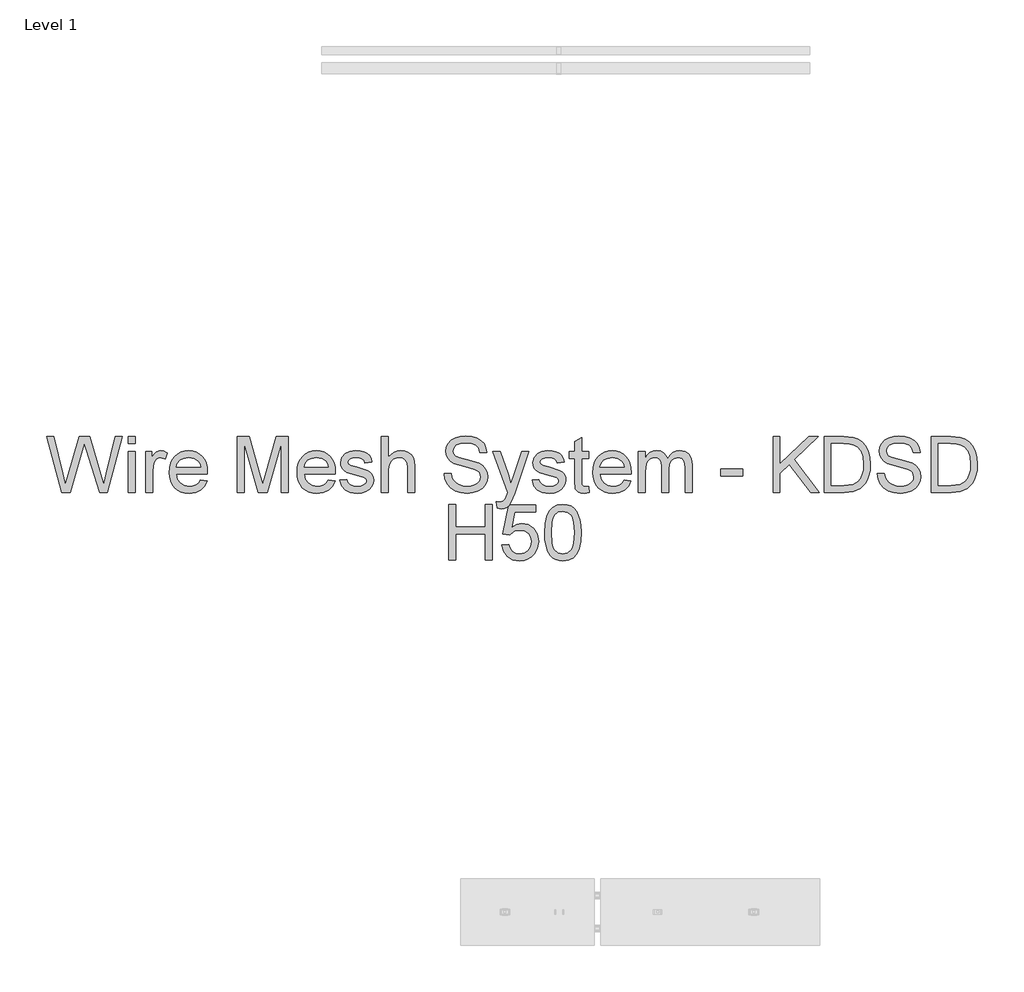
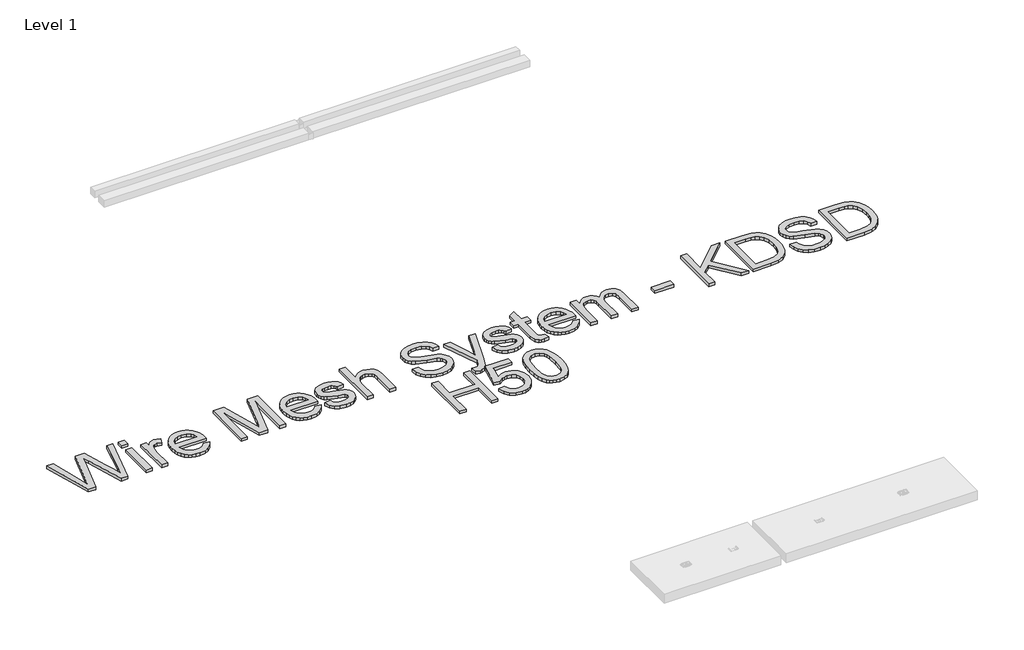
# One storey, part 76 of 106: 1 proxy.
"""IFC4 building model written with IfcOpenShell, lengths in millimetres."""

from ifc_helpers import new_model, si_unit, origin, origin_with_axes, place, context, project, spatial, polyline, outline, extrude, element, save

model = new_model("IFC4")

# Units and contexts
model_context = context("Model", 3, world=origin())
ifc_project = project(units=[si_unit("LENGTHUNIT", "METRE", prefix="MILLI")], contexts=[model_context])

# Site, building, storey
site = spatial("IfcSite", under=ifc_project)
building = spatial("IfcBuilding", under=site)
storey = spatial("IfcBuildingStorey", under=building, Name="Level 1", Elevation=0.0)

# Proxy
placement = place(None, origin())
element("IfcBuildingElementProxy", 1, Name="250mm Arial 3", ObjectType="250mm Arial 3", at=placement, inside=storey, context=model_context, shape_type="SweptSolid", body=[
    extrude(outline(polyline([(3690.6455865, 64603.1379564), (3622.1582217, 64854.2787318), (3654.5318373, 64854.2787318), (3694.2630928, 64689.2223433), (3706.525826, 64638.2706869), (3719.6469505, 64683.3362313), (3769.4336471, 64854.2787318), (3816.0933469, 64854.2787318), (3852.2684097, 64730.3638131), (3867.7654388, 64684.3785637), (3879.185109, 64638.2706869), (3891.0799602, 64687.7508153), (3931.1790977, 64854.2787318), (3963.5527133, 64854.2787318), (3895.0040348, 64603.1379564), (3861.4654596, 64603.1379564), (3801.2554397, 64796.8891405), (3792.8554675, 64823.9284672), (3783.413163, 64791.3709106), (3728.537432, 64603.1379564), (3690.6455865, 64603.1379564)])), origin_with_axes(), (0.0, 0.0, 1.0), 15.0),
    extrude(outline(polyline([(3991.0212356, 64822.8861348), (3991.0212356, 64854.2787318), (4022.4138325, 64854.2787318), (4022.4138325, 64822.8861348), (3991.0212356, 64822.8861348)])), origin_with_axes(), (0.0, 0.0, 1.0), 15.0),
    extrude(outline(polyline([(3991.0212356, 64603.1379564), (3991.0212356, 64787.5694633), (4022.4138325, 64787.5694633), (4022.4138325, 64603.1379564), (3991.0212356, 64603.1379564)])), origin_with_axes(), (0.0, 0.0, 1.0), 15.0),
    extrude(outline(polyline([(4069.5027279, 64603.1379564), (4069.5027279, 64787.5694633), (4096.9712502, 64787.5694633), (4096.9712502, 64760.284882), (4107.1186619, 64776.1038078), (4116.4689959, 64785.423485), (4136.089369, 64791.4935379), (4151.7243538, 64789.0716481), (4167.6045933, 64781.8059787), (4157.1199564, 64753.6630061), (4135.0470367, 64760.100941), (4125.67371, 64758.5527709), (4117.2967304, 64753.9082608), (4105.9843591, 64736.7404343), (4100.8953248, 64700.0748621), (4100.8953248, 64603.1379564), (4069.5027279, 64603.1379564)])), origin_with_axes(), (0.0, 0.0, 1.0), 15.0),
    extrude(outline(polyline([(4316.3515466, 64658.075001), (4347.1310069, 64654.1509264), (4336.0408976, 64630.9590323), (4318.3442408, 64613.6225933), (4294.4395753, 64602.8160597), (4264.72544, 64599.2138818), (4245.2468548, 64600.7678), (4227.8912552, 64605.4295547), (4212.6586414, 64613.1991458), (4199.5490132, 64624.0765733), (4189.0068947, 64637.759101), (4181.4768102, 64653.9439928), (4176.9587594, 64672.6312485), (4175.4527425, 64693.8208682), (4176.9740878, 64715.7290074), (4181.5381238, 64735.0389801), (4189.1448505, 64751.7507861), (4199.7942678, 64765.8644256), (4212.8694071, 64777.0771622), (4227.7532995, 64785.0862598), (4244.445945, 64789.8917184), (4262.9473437, 64791.4935379), (4280.8528502, 64789.8955505), (4297.0454061, 64785.1015883), (4311.5250115, 64777.1116512), (4324.2916664, 64765.9257393), (4334.7130735, 64751.8427566), (4342.1569358, 64735.1616074), (4346.6232531, 64715.8822916), (4348.1120256, 64694.0048092), (4347.9280846, 64685.5435233), (4206.8453394, 64685.5435233), (4212.279263, 64662.0450609), (4224.902214, 64644.7699355), (4243.120037, 64634.1473429), (4265.3385766, 64630.6064787), (4282.0465506, 64632.2466193), (4296.1180369, 64637.1670409), (4307.5530356, 64645.6743121), (4316.3515466, 64658.075001)]), holes=[polyline([(4206.8453394, 64716.9361202), (4316.7194286, 64716.9361202), (4312.4734573, 64733.5214669), (4304.1501271, 64745.3856612), (4285.8479979, 64756.4221211), (4262.8247163, 64760.100941), (4241.6638374, 64757.1655493), (4224.16645, 64748.359374), (4212.0033515, 64734.632777), (4206.8453394, 64716.9361202)])]), origin_with_axes(), (0.0, 0.0, 1.0), 15.0),
    extrude(outline(polyline([(4481.5305625, 64603.1379564), (4481.5305625, 64854.2787318), (4535.5479021, 64854.2787318), (4586.9287541, 64677.2661784), (4597.2907636, 64640.2940379), (4608.5111645, 64680.3318617), (4659.0336251, 64854.2787318), (4713.0509648, 64854.2787318), (4713.0509648, 64603.1379564), (4681.6583678, 64603.1379564), (4681.6583678, 64822.8861348), (4618.5666057, 64603.1379564), (4576.0149216, 64603.1379564), (4512.9231594, 64822.8861348), (4512.9231594, 64603.1379564), (4481.5305625, 64603.1379564)])), origin_with_axes(), (0.0, 0.0, 1.0), 15.0),
    extrude(outline(polyline([(4893.1905151, 64658.075001), (4923.9699753, 64654.1509264), (4912.879866, 64630.9590323), (4895.1832092, 64613.6225933), (4871.2785437, 64602.8160597), (4841.5644084, 64599.2138818), (4822.0858232, 64600.7678), (4804.7302237, 64605.4295547), (4789.4976098, 64613.1991458), (4776.3879816, 64624.0765733), (4765.8458632, 64637.759101), (4758.3157786, 64653.9439928), (4753.7977278, 64672.6312485), (4752.2917109, 64693.8208682), (4753.8130563, 64715.7290074), (4758.3770923, 64735.0389801), (4765.9838189, 64751.7507861), (4776.6332363, 64765.8644256), (4789.7083755, 64777.0771622), (4804.5922679, 64785.0862598), (4821.2849134, 64789.8917184), (4839.7863121, 64791.4935379), (4857.6918186, 64789.8955505), (4873.8843745, 64785.1015883), (4888.3639799, 64777.1116512), (4901.1306348, 64765.9257393), (4911.5520419, 64751.8427566), (4918.9959042, 64735.1616074), (4923.4622215, 64715.8822916), (4924.950994, 64694.0048092), (4924.767053, 64685.5435233), (4783.6843078, 64685.5435233), (4789.1182315, 64662.0450609), (4801.7411824, 64644.7699355), (4819.9590054, 64634.1473429), (4842.1775451, 64630.6064787), (4858.885519, 64632.2466193), (4872.9570053, 64637.1670409), (4884.392004, 64645.6743121), (4893.1905151, 64658.075001)]), holes=[polyline([(4783.6843078, 64716.9361202), (4893.5583971, 64716.9361202), (4889.3124257, 64733.5214669), (4880.9890956, 64745.3856612), (4862.6869663, 64756.4221211), (4839.6636848, 64760.100941), (4818.5028058, 64757.1655493), (4801.0054184, 64748.359374), (4788.84232, 64734.632777), (4783.6843078, 64716.9361202)])]), origin_with_axes(), (0.0, 0.0, 1.0), 15.0),
    extrude(outline(polyline([(4944.5713671, 64658.075001), (4975.963964, 64661.9990756), (4980.9150425, 64648.5713828), (4990.4953028, 64638.6998826), (5004.7660585, 64632.6298297), (5023.7886234, 64630.6064787), (5042.5812619, 64632.4612171), (5055.7943569, 64638.0254323), (5063.6118493, 64646.0881793), (5066.2176801, 64655.4385134), (5063.5965209, 64663.4399468), (5055.7330433, 64669.5406565), (5023.4207414, 64678.4924517), (4976.147905, 64693.851525), (4964.1840759, 64701.5693827), (4955.5158564, 64711.7857723), (4950.2505454, 64723.8492361), (4948.4954417, 64737.1083163), (4954.1362989, 64760.4994798), (4969.5260291, 64778.3724134), (4989.4836273, 64787.6614338), (5016.4922971, 64791.4935379), (5036.9250763, 64789.9530321), (5054.690711, 64785.3315145), (5068.9767951, 64778.0811735), (5078.9709226, 64768.6541974), (5085.5927986, 64756.3531432), (5089.7621278, 64740.4805679), (5058.3695309, 64736.5564933), (5054.4071353, 64746.4356577), (5046.5666502, 64753.8776039), (5034.7714338, 64758.5451067), (5018.9448438, 64760.100941), (5000.918626, 64758.6140846), (4988.9011475, 64754.1535154), (4982.1413158, 64747.7155805), (4979.8880386, 64740.2966269), (4983.6281722, 64731.1608907), (4995.3390824, 64724.2324465), (5022.378409, 64717.5492569), (5068.4556289, 64702.7726634), (5080.6263916, 64695.7062634), (5089.8540983, 64686.0340326), (5095.6712324, 64673.7253142), (5097.6102771, 64658.7494513), (5095.3340072, 64643.2677507), (5088.5051977, 64628.7057551), (5077.3844315, 64616.2054314), (5062.2322919, 64606.9087468), (5043.9301626, 64601.137598), (5023.3594277, 64599.2138818), (4991.7062477, 64602.9233586), (4968.6063241, 64614.0517889), (4953.1859371, 64632.4765455), (4944.5713671, 64658.075001)])), origin_with_axes(), (0.0, 0.0, 1.0), 15.0),
    extrude(outline(polyline([(5132.9269486, 64603.1379564), (5132.9269486, 64854.2787318), (5164.3195455, 64854.2787318), (5164.3195455, 64761.940351), (5175.8503468, 64774.8698703), (5188.7990266, 64784.1052412), (5203.1655849, 64789.6464637), (5218.9500218, 64791.4935379), (5237.911273, 64789.4778512), (5254.2053797, 64783.4307909), (5267.0352643, 64773.8275379), (5275.6038491, 64761.1432733), (5280.4323002, 64743.7148638), (5282.041784, 64719.8791762), (5282.041784, 64603.1379564), (5250.6491871, 64603.1379564), (5250.6491871, 64716.6295519), (5248.1506552, 64736.2805818), (5240.6550595, 64749.7389315), (5228.5762673, 64757.5104386), (5212.3281459, 64760.100941), (5199.0614014, 64758.3535015), (5186.6070631, 64753.1111831), (5176.2910388, 64744.8798235), (5169.4392366, 64734.1652603), (5165.5994683, 64719.9251614), (5164.3195455, 64701.1171944), (5164.3195455, 64603.1379564), (5132.9269486, 64603.1379564)])), origin_with_axes(), (0.0, 0.0, 1.0), 15.0),
    extrude(outline(polyline([(5415.4603209, 64689.4675979), (5446.8529178, 64689.4675979), (5450.4550957, 64672.0468526), (5456.9696727, 64658.0443442), (5467.1324128, 64646.9312422), (5481.67908, 64638.1787164), (5499.4600431, 64632.4995381), (5519.3256709, 64630.6064787), (5536.8153941, 64632.0396856), (5552.1284821, 64636.3393065), (5564.5368352, 64643.1451234), (5573.3123537, 64652.0969186), (5578.5316795, 64662.3746218), (5580.2714547, 64673.1581628), (5575.0597931, 64692.7478791), (5567.1196734, 64700.4963936), (5553.7226374, 64707.0033064), (5508.0132995, 64718.990128), (5458.8090827, 64734.4718287), (5443.1817621, 64745.0331076), (5432.1069812, 64757.8323354), (5425.5080979, 64772.5936004), (5423.3084701, 64789.0409913), (5426.029264, 64807.4274268), (5434.1916458, 64824.5722607), (5447.5810176, 64839.1035995), (5465.9827816, 64849.64955), (5488.0710297, 64856.0644923), (5512.519854, 64858.2028064), (5539.0073576, 64855.9648576), (5562.1839233, 64849.2510112), (5581.2218166, 64838.1992229), (5595.2933029, 64822.9474485), (5604.1991128, 64804.4460498), (5607.739977, 64783.6453887), (5576.3473801, 64783.6453887), (5570.5838955, 64802.3767136), (5558.566417, 64815.8963769), (5539.7891068, 64824.0817513), (5513.7461273, 64826.8102095), (5487.090011, 64824.1124082), (5468.8032102, 64816.0190043), (5458.2266028, 64804.1088247), (5454.701067, 64789.9606963), (5457.1995989, 64777.8972325), (5464.6951946, 64768.1943449), (5482.414844, 64759.5184612), (5515.9534192, 64750.6586365), (5571.5036005, 64734.9010243), (5589.3995267, 64723.5120109), (5601.8845219, 64709.455853), (5609.2191692, 64692.8858348), (5611.6640517, 64673.9552405), (5608.8512872, 64654.6031147), (5600.412994, 64636.4006201), (5586.6940612, 64620.7349785), (5568.0393784, 64608.9934115), (5545.6062409, 64601.6587642), (5520.5519442, 64599.2138818), (5489.7954765, 64601.8503694), (5464.4805968, 64609.7598323), (5444.3160649, 64622.9729273), (5429.010641, 64641.5203112), (5419.1851261, 64664.1143971), (5415.4603209, 64689.4675979)])), origin_with_axes(), (0.0, 0.0, 1.0), 15.0),
    extrude(outline(polyline([(5654.8288724, 64532.5046133), (5650.9047978, 64562.7322506), (5666.8463509, 64559.9731356), (5681.7455717, 64563.4373577), (5690.8813079, 64573.0942601), (5699.4652212, 64596.2095122), (5701.9177678, 64603.8124067), (5635.2084993, 64787.5694633), (5668.3178789, 64787.5694633), (5703.6958641, 64685.1756413), (5716.019911, 64644.2181125), (5728.3439578, 64680.3931754), (5764.7029616, 64787.5694633), (5797.5670866, 64787.5694633), (5733.3716784, 64598.7233725), (5716.6943613, 64557.7658437), (5708.1564333, 64544.6907044), (5698.4842025, 64535.6316103), (5687.2484732, 64530.3433066), (5674.0200498, 64528.5805387), (5654.8288724, 64532.5046133)])), origin_with_axes(), (0.0, 0.0, 1.0), 15.0),
    extrude(outline(polyline([(5811.791857, 64658.075001), (5843.184454, 64661.9990756), (5848.1355325, 64648.5713828), (5857.7157928, 64638.6998826), (5871.9865485, 64632.6298297), (5891.0091133, 64630.6064787), (5909.8017519, 64632.4612171), (5923.0148469, 64638.0254323), (5930.8323393, 64646.0881793), (5933.4381701, 64655.4385134), (5930.8170109, 64663.4399468), (5922.9535332, 64669.5406565), (5890.6412313, 64678.4924517), (5843.368395, 64693.851525), (5831.4045659, 64701.5693827), (5822.7363464, 64711.7857723), (5817.4710353, 64723.8492361), (5815.7159316, 64737.1083163), (5821.3567889, 64760.4994798), (5836.746519, 64778.3724134), (5856.7041173, 64787.6614338), (5883.7127871, 64791.4935379), (5904.1455662, 64789.9530321), (5921.9112009, 64785.3315145), (5936.1972851, 64778.0811735), (5946.1914126, 64768.6541974), (5952.8132885, 64756.3531432), (5956.9826178, 64740.4805679), (5925.5900209, 64736.5564933), (5921.6276252, 64746.4356577), (5913.7871402, 64753.8776039), (5901.9919237, 64758.5451067), (5886.1653337, 64760.100941), (5868.139116, 64758.6140846), (5856.1216374, 64754.1535154), (5849.3618058, 64747.7155805), (5847.1085286, 64740.2966269), (5850.8486622, 64731.1608907), (5862.5595724, 64724.2324465), (5889.598899, 64717.5492569), (5935.6761189, 64702.7726634), (5947.8468816, 64695.7062634), (5957.0745883, 64686.0340326), (5962.8917223, 64673.7253142), (5964.830767, 64658.7494513), (5962.5544972, 64643.2677507), (5955.7256876, 64628.7057551), (5944.6049215, 64616.2054314), (5929.4527818, 64606.9087468), (5911.1506526, 64601.137598), (5890.5799177, 64599.2138818), (5858.9267377, 64602.9233586), (5835.826814, 64614.0517889), (5820.4064271, 64632.4765455), (5811.791857, 64658.075001)])), origin_with_axes(), (0.0, 0.0, 1.0), 15.0),
    extrude(outline(polyline([(6066.856707, 64629.3188917), (6070.7807816, 64602.2182514), (6047.2976476, 64599.2138818), (6032.2298142, 64600.5167972), (6020.994085, 64604.4255434), (6007.8729605, 64618.0984909), (6004.0715132, 64653.7217307), (6004.0715132, 64756.1768664), (5980.5270655, 64756.1768664), (5980.5270655, 64787.5694633), (6004.0715132, 64787.5694633), (6004.0715132, 64832.3897531), (6035.4641101, 64850.8451665), (6035.4641101, 64787.5694633), (6066.856707, 64787.5694633), (6066.856707, 64756.1768664), (6035.4641101, 64756.1768664), (6035.4641101, 64654.6414357), (6037.1195791, 64638.4546279), (6042.4845248, 64632.7218002), (6053.1837595, 64630.6064787), (6066.856707, 64629.3188917)])), origin_with_axes(), (0.0, 0.0, 1.0), 15.0),
    extrude(outline(polyline([(6227.3758842, 64658.075001), (6258.1553445, 64654.1509264), (6247.0652352, 64630.9590323), (6229.3685784, 64613.6225933), (6205.4639129, 64602.8160597), (6175.7497776, 64599.2138818), (6156.2711924, 64600.7678), (6138.9155928, 64605.4295547), (6123.682979, 64613.1991458), (6110.5733508, 64624.0765733), (6100.0312324, 64637.759101), (6092.5011478, 64653.9439928), (6087.983097, 64672.6312485), (6086.4770801, 64693.8208682), (6087.9984254, 64715.7290074), (6092.5624614, 64735.0389801), (6100.1691881, 64751.7507861), (6110.8186054, 64765.8644256), (6123.8937447, 64777.0771622), (6138.7776371, 64785.0862598), (6155.4702826, 64789.8917184), (6173.9716813, 64791.4935379), (6191.8771878, 64789.8955505), (6208.0697437, 64785.1015883), (6222.5493491, 64777.1116512), (6235.316004, 64765.9257393), (6245.7374111, 64751.8427566), (6253.1812734, 64735.1616074), (6257.6475907, 64715.8822916), (6259.1363632, 64694.0048092), (6258.9524222, 64685.5435233), (6117.869677, 64685.5435233), (6123.3036007, 64662.0450609), (6135.9265516, 64644.7699355), (6154.1443746, 64634.1473429), (6176.3629143, 64630.6064787), (6193.0708882, 64632.2466193), (6207.1423745, 64637.1670409), (6218.5773732, 64645.6743121), (6227.3758842, 64658.075001)]), holes=[polyline([(6117.869677, 64716.9361202), (6227.7437662, 64716.9361202), (6223.4977949, 64733.5214669), (6215.1744647, 64745.3856612), (6196.8723355, 64756.4221211), (6173.849054, 64760.100941), (6152.688175, 64757.1655493), (6135.1907876, 64748.359374), (6123.0276892, 64734.632777), (6117.869677, 64716.9361202)])]), origin_with_axes(), (0.0, 0.0, 1.0), 15.0),
    extrude(outline(polyline([(6290.5289601, 64603.1379564), (6290.5289601, 64787.5694633), (6321.921557, 64787.5694633), (6321.921557, 64757.2191987), (6331.3638616, 64771.1603935), (6343.5039674, 64782.0818902), (6357.9280073, 64789.140626), (6374.222114, 64791.4935379), (6391.6811803, 64789.0946407), (6405.6760246, 64781.8979492), (6416.1300046, 64770.3786442), (6422.9664784, 64755.0119067), (6434.4091412, 64770.9726204), (6447.4612879, 64782.3731301), (6462.1229182, 64789.213436), (6478.3940323, 64791.4935379), (6501.9921294, 64787.6997549), (6519.4435316, 64776.3184056), (6530.2270726, 64757.0429219), (6533.8215862, 64729.5667354), (6533.8215862, 64603.1379564), (6502.4289893, 64603.1379564), (6502.4289893, 64716.0777289), (6499.5165902, 64742.2893211), (6488.9706397, 64755.1958477), (6471.0363924, 64760.100941), (6454.0295143, 64756.9586156), (6440.1649616, 64747.5316395), (6430.9449191, 64731.1762191), (6427.8715716, 64707.248561), (6427.8715716, 64603.1379564), (6396.4789747, 64603.1379564), (6396.4789747, 64719.5726079), (6394.6625573, 64737.3229141), (6389.2133053, 64749.9841861), (6379.6253808, 64757.5717523), (6365.3929461, 64760.100941), (6353.2988255, 64758.4148152), (6342.1550667, 64753.3564378), (6332.9580169, 64745.048436), (6326.7040229, 64733.6134374), (6321.921557, 64696.1507875), (6321.921557, 64603.1379564), (6290.5289601, 64603.1379564)])), origin_with_axes(), (0.0, 0.0, 1.0), 15.0),
    extrude(outline(polyline([(6663.3160485, 64677.6953741), (6663.3160485, 64709.087971), (6761.4179139, 64709.087971), (6761.4179139, 64677.6953741), (6663.3160485, 64677.6953741)])), origin_with_axes(), (0.0, 0.0, 1.0), 15.0),
    extrude(outline(polyline([(6898.7605254, 64603.1379564), (6898.7605254, 64854.2787318), (6930.1531224, 64854.2787318), (6930.1531224, 64731.3448317), (7058.9118207, 64854.2787318), (7102.8124054, 64854.2787318), (6994.7164125, 64751.0265185), (7106.7364801, 64603.1379564), (7068.3541252, 64603.1379564), (6972.4595518, 64729.8119901), (6930.1531224, 64689.4675979), (6930.1531224, 64603.1379564), (6898.7605254, 64603.1379564)])), origin_with_axes(), (0.0, 0.0, 1.0), 15.0),
    extrude(outline(polyline([(7130.2809277, 64603.1379564), (7130.2809277, 64854.2787318), (7216.9171376, 64854.2787318), (7261.7374274, 64850.6612255), (7281.7563393, 64843.686796), (7298.6482542, 64832.6963214), (7316.0153501, 64813.5664576), (7328.3853821, 64789.7767553), (7335.7890073, 64761.7870668), (7338.2568824, 64730.0572447), (7336.586085, 64703.1022244), (7331.5736928, 64679.3814999), (7323.9401414, 64659.1863112), (7314.4058663, 64642.8078982), (7291.4745553, 64620.0298713), (7261.4615159, 64607.429913), (7221.0864669, 64603.1379564), (7130.2809277, 64603.1379564)]), holes=[polyline([(7161.6735247, 64634.5305533), (7217.2237059, 64634.5305533), (7257.6294117, 64639.0677646), (7280.9286048, 64651.8823208), (7291.8347731, 64665.470962), (7300.0278117, 64683.0603198), (7305.155167, 64704.7270365), (7306.8642854, 64730.5477541), (7303.5150264, 64764.7607796), (7293.4672494, 64790.0220099), (7278.6216781, 64807.3737774), (7260.879036, 64817.8584142), (7242.8221614, 64821.6292047), (7216.3653146, 64822.8861348), (7161.6735247, 64822.8861348), (7161.6735247, 64634.5305533)])]), origin_with_axes(), (0.0, 0.0, 1.0), 15.0),
    extrude(outline(polyline([(7369.6494793, 64689.4675979), (7401.0420762, 64689.4675979), (7404.6442541, 64672.0468526), (7411.1588311, 64658.0443442), (7421.3215712, 64646.9312422), (7435.8682384, 64638.1787164), (7453.6492015, 64632.4995381), (7473.5148292, 64630.6064787), (7491.0045524, 64632.0396856), (7506.3176405, 64636.3393065), (7518.7259936, 64643.1451234), (7527.501512, 64652.0969186), (7532.7208378, 64662.3746218), (7534.4606131, 64673.1581628), (7529.2489515, 64692.7478791), (7521.3088318, 64700.4963936), (7507.9117958, 64707.0033064), (7462.2024579, 64718.990128), (7412.998241, 64734.4718287), (7397.3709205, 64745.0331076), (7386.2961396, 64757.8323354), (7379.6972563, 64772.5936004), (7377.4976285, 64789.0409913), (7380.2184224, 64807.4274268), (7388.3808042, 64824.5722607), (7401.770176, 64839.1035995), (7420.1719399, 64849.64955), (7442.2601881, 64856.0644923), (7466.7090123, 64858.2028064), (7493.196516, 64855.9648576), (7516.3730817, 64849.2510112), (7535.4109749, 64838.1992229), (7549.4824612, 64822.9474485), (7558.3882712, 64804.4460498), (7561.9291354, 64783.6453887), (7530.5365385, 64783.6453887), (7524.7730539, 64802.3767136), (7512.7555754, 64815.8963769), (7493.9782652, 64824.0817513), (7467.9352857, 64826.8102095), (7441.2791694, 64824.1124082), (7422.9923686, 64816.0190043), (7412.4157612, 64804.1088247), (7408.8902254, 64789.9606963), (7411.3887573, 64777.8972325), (7418.884353, 64768.1943449), (7436.6040024, 64759.5184612), (7470.1425776, 64750.6586365), (7525.6927589, 64734.9010243), (7543.5886851, 64723.5120109), (7556.0736803, 64709.455853), (7563.4083276, 64692.8858348), (7565.85321, 64673.9552405), (7563.0404456, 64654.6031147), (7554.6021523, 64636.4006201), (7540.8832196, 64620.7349785), (7522.2285368, 64608.9934115), (7499.7953993, 64601.6587642), (7474.7411026, 64599.2138818), (7443.9846349, 64601.8503694), (7418.6697551, 64609.7598323), (7398.5052233, 64622.9729273), (7383.1997994, 64641.5203112), (7373.3742845, 64664.1143971), (7369.6494793, 64689.4675979)])), origin_with_axes(), (0.0, 0.0, 1.0), 15.0),
    extrude(outline(polyline([(7612.9421054, 64603.1379564), (7612.9421054, 64854.2787318), (7699.5783153, 64854.2787318), (7744.398605, 64850.6612255), (7764.4175169, 64843.686796), (7781.3094319, 64832.6963214), (7798.6765277, 64813.5664576), (7811.0465598, 64789.7767553), (7818.450185, 64761.7870668), (7820.91806, 64730.0572447), (7819.2472626, 64703.1022244), (7814.2348704, 64679.3814999), (7806.601319, 64659.1863112), (7797.067044, 64642.8078982), (7774.135733, 64620.0298713), (7744.1226935, 64607.429913), (7703.7476446, 64603.1379564), (7612.9421054, 64603.1379564)]), holes=[polyline([(7644.3347023, 64634.5305533), (7699.8848836, 64634.5305533), (7740.2905894, 64639.0677646), (7763.5897824, 64651.8823208), (7774.4959508, 64665.470962), (7782.6889894, 64683.0603198), (7787.8163447, 64704.7270365), (7789.5254631, 64730.5477541), (7786.1762041, 64764.7607796), (7776.1284271, 64790.0220099), (7761.2828558, 64807.3737774), (7743.5402137, 64817.8584142), (7725.4833391, 64821.6292047), (7699.0264923, 64822.8861348), (7644.3347023, 64822.8861348), (7644.3347023, 64634.5305533)])]), origin_with_axes(), (0.0, 0.0, 1.0), 15.0),
    extrude(outline(polyline([(5437.0427313, 64298.2009118), (5437.0427313, 64549.3416872), (5468.4353282, 64549.3416872), (5468.4353282, 64447.3157472), (5601.8538651, 64447.3157472), (5601.8538651, 64549.3416872), (5633.246462, 64549.3416872), (5633.246462, 64298.2009118), (5601.8538651, 64298.2009118), (5601.8538651, 64415.9231502), (5468.4353282, 64415.9231502), (5468.4353282, 64298.2009118), (5437.0427313, 64298.2009118)])), origin_with_axes(), (0.0, 0.0, 1.0), 15.0),
    extrude(outline(polyline([(5676.4112828, 64364.9101802), (5707.8038797, 64368.8342549), (5713.5673643, 64349.9879668), (5723.6228055, 64336.4912961), (5737.9242181, 64328.3748996), (5756.4256168, 64325.6694341), (5778.9277321, 64329.4325603), (5795.7889902, 64340.7219391), (5806.3196124, 64358.2346549), (5809.8298197, 64380.6677924), (5806.5418744, 64401.7903503), (5796.6780384, 64417.9465012), (5780.1616697, 64428.2012118), (5756.9161261, 64431.6194487), (5741.6873443, 64430.2552196), (5729.3556333, 64426.1625324), (5711.7279543, 64411.9990756), (5680.3353574, 64415.9231502), (5707.8038797, 64545.4176125), (5829.4501928, 64545.4176125), (5829.4501928, 64514.0250156), (5733.1877374, 64514.0250156), (5719.7600446, 64444.8632005), (5742.1855179, 64458.4748343), (5765.6839803, 64463.0120456), (5795.0149052, 64457.3865168), (5819.3640948, 64440.5099303), (5835.7578362, 64414.7888474), (5841.2224166, 64382.6298297), (5836.301995, 64351.2372328), (5821.5407299, 64324.3818471), (5808.4962475, 64311.2109053), (5793.2751299, 64301.8030897), (5775.8773773, 64296.1584003), (5756.3029894, 64294.2768372), (5725.4698797, 64299.1129526), (5700.9060923, 64313.6212987), (5684.0678268, 64336.1157499), (5676.4112828, 64364.9101802)])), origin_with_axes(), (0.0, 0.0, 1.0), 15.0),
    extrude(outline(polyline([(5868.690939, 64421.7479485), (5870.9978656, 64461.9467207), (5877.9186457, 64494.0061037), (5889.3843012, 64518.4166069), (5905.3258543, 64535.6687397), (5925.8582682, 64545.9234503), (5951.0965059, 64549.3416872), (5970.4409675, 64547.3183362), (5987.7620781, 64541.2482833), (6002.2474316, 64531.3691189), (6013.0846221, 64517.9184334), (6027.7999019, 64480.7623519), (6032.0765301, 64455.0489333), (6033.5020728, 64421.7479485), (6031.2181387, 64381.7791026), (6024.3663366, 64349.7963616), (6012.9696589, 64325.3628658), (5997.0510984, 64308.0417552), (5976.4726993, 64297.7180667), (5951.0965059, 64294.2768372), (5933.8060521, 64295.7713578), (5918.4776356, 64300.2549196), (5905.1112565, 64307.7275226), (5893.7069146, 64318.1891669), (5882.7624253, 64337.1006007), (5874.9449329, 64360.6642089), (5870.2544374, 64388.8799915), (5868.690939, 64421.7479485)]), holes=[polyline([(5900.0835359, 64421.8092622), (5903.7623558, 64372.4287685), (5908.3608808, 64355.5387696), (5914.7988157, 64343.848936), (5931.2308781, 64330.2143096), (5951.0965059, 64325.6694341), (5970.9621336, 64330.229638), (5987.3941961, 64343.9102497), (5993.832131, 64355.6192438), (5998.4306559, 64372.5054106), (6002.1094759, 64421.8092622), (5998.5532832, 64470.0784456), (5994.1080425, 64486.912879), (5987.8847054, 64498.8805402), (5971.4832998, 64513.1819527), (5950.7286239, 64517.9490902), (5931.077594, 64513.7491041), (5915.289325, 64501.1491458), (5908.6367923, 64488.1199918), (5903.8849832, 64470.5536265), (5900.0835359, 64421.8092622)])]), origin_with_axes(), (0.0, 0.0, 1.0), 15.0),
])

save(model, "model.ifc")
